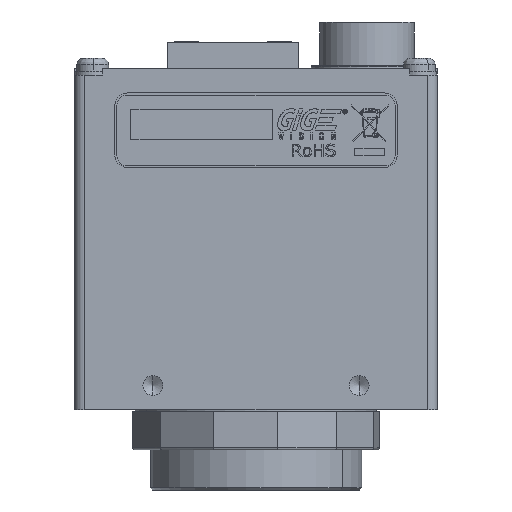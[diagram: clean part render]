
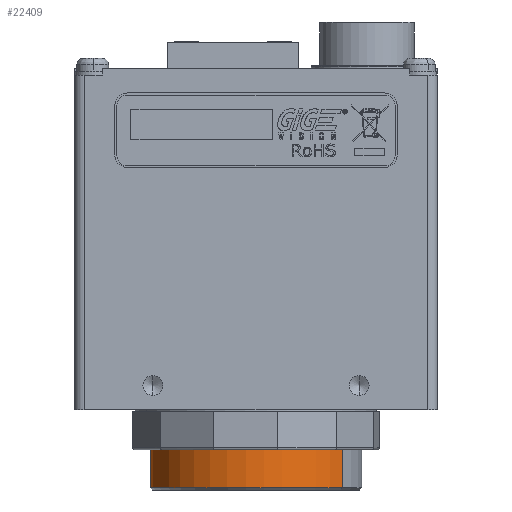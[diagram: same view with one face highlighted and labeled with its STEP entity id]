
A CAD part, front view. The second image highlights one B-rep face of the part: STEP entity #22409.
In plain terms, the highlighted cylindrical face has radius 13.335 mm (diameter 26.67 mm), a partial arc.
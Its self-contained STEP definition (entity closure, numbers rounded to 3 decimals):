
#4187 = ORIENTED_EDGE ( 'NONE', *, *, #20384, .T. ) ;
#6935 = EDGE_CURVE ( 'NONE', #93016, #151791, #12974, .T. ) ;
#12974 = CIRCLE ( 'NONE', #155315, 13.335 ) ;
#18805 = VECTOR ( 'NONE', #155733, 1000. ) ;
#20384 = EDGE_CURVE ( 'NONE', #154262, #77917, #69502, .T. ) ;
#21010 = VECTOR ( 'NONE', #73317, 1000. ) ;
#21367 = CARTESIAN_POINT ( 'NONE',  ( 13.335, 0., 7.214 ) ) ;
#22409 = ADVANCED_FACE ( 'NONE', ( #127348 ), #146051, .T. ) ;
#23570 = AXIS2_PLACEMENT_3D ( 'NONE', #174696, #173411, #173110 ) ;
#25855 = ORIENTED_EDGE ( 'NONE', *, *, #52380, .T. ) ;
#26020 = EDGE_CURVE ( 'NONE', #93016, #77917, #92377, .T. ) ;
#26550 = CARTESIAN_POINT ( 'NONE',  ( -13.335, 0., 13.386 ) ) ;
#28679 = DIRECTION ( 'NONE',  ( 1., 0., 0. ) ) ;
#28710 = DIRECTION ( 'NONE',  ( 0., 0., -1. ) ) ;
#29284 = CARTESIAN_POINT ( 'NONE',  ( 0., 0., 13.386 ) ) ;
#31272 = ORIENTED_EDGE ( 'NONE', *, *, #26020, .F. ) ;
#36503 = CARTESIAN_POINT ( 'NONE',  ( 13.335, 0., 13.386 ) ) ;
#51276 = DIRECTION ( 'NONE',  ( 1., 0., 0. ) ) ;
#51452 = DIRECTION ( 'NONE',  ( 0., 0., 1. ) ) ;
#51633 = CARTESIAN_POINT ( 'NONE',  ( 0., 0., 7.214 ) ) ;
#52380 = EDGE_CURVE ( 'NONE', #151791, #154262, #126293, .T. ) ;
#69502 = CIRCLE ( 'NONE', #128949, 13.335 ) ;
#71914 = CARTESIAN_POINT ( 'NONE',  ( 13.335, 0., 7.214 ) ) ;
#73317 = DIRECTION ( 'NONE',  ( 0., 0., 1. ) ) ;
#77917 = VERTEX_POINT ( 'NONE', #26550 ) ;
#86557 = EDGE_LOOP ( 'NONE', ( #31272, #146958, #25855, #4187 ) ) ;
#92377 = LINE ( 'NONE', #154416, #18805 ) ;
#93016 = VERTEX_POINT ( 'NONE', #154694 ) ;
#126293 = LINE ( 'NONE', #71914, #21010 ) ;
#127348 = FACE_OUTER_BOUND ( 'NONE', #86557, .T. ) ;
#128949 = AXIS2_PLACEMENT_3D ( 'NONE', #29284, #28710, #28679 ) ;
#146051 = CYLINDRICAL_SURFACE ( 'NONE', #23570, 13.335 ) ;
#146958 = ORIENTED_EDGE ( 'NONE', *, *, #6935, .T. ) ;
#151791 = VERTEX_POINT ( 'NONE', #21367 ) ;
#154262 = VERTEX_POINT ( 'NONE', #36503 ) ;
#154416 = CARTESIAN_POINT ( 'NONE',  ( -13.335, 0., 7.214 ) ) ;
#154694 = CARTESIAN_POINT ( 'NONE',  ( -13.335, 0., 7.214 ) ) ;
#155315 = AXIS2_PLACEMENT_3D ( 'NONE', #51633, #51452, #51276 ) ;
#155733 = DIRECTION ( 'NONE',  ( 0., 0., 1. ) ) ;
#173110 = DIRECTION ( 'NONE',  ( 1., 0., 0. ) ) ;
#173411 = DIRECTION ( 'NONE',  ( 0., 0., 1. ) ) ;
#174696 = CARTESIAN_POINT ( 'NONE',  ( 0., 0., 7.214 ) ) ;
